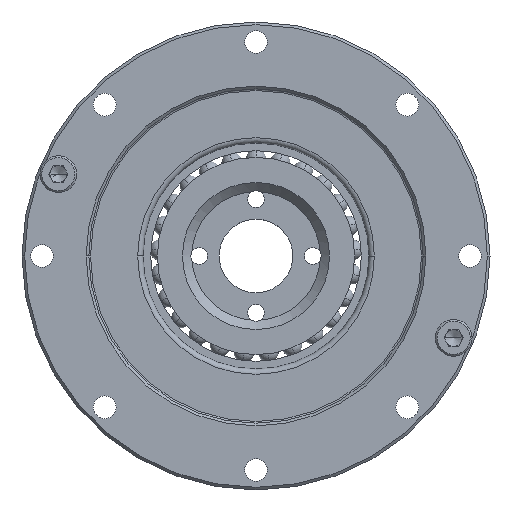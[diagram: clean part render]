
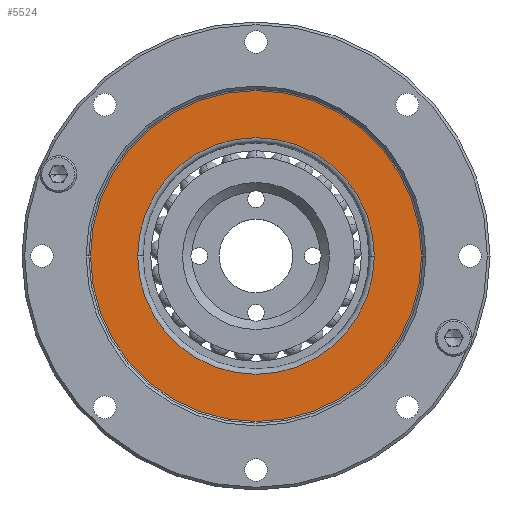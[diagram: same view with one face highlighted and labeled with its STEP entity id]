
A CAD part, left-side view. The second image highlights one B-rep face of the part: STEP entity #5524.
In plain terms, the highlighted planar face has unit normal (-1, 0, 0).
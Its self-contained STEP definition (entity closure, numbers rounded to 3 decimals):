
#653 = CARTESIAN_POINT ( 'NONE',  ( -17.11, -5.266, 70. ) ) ;
#813 = EDGE_CURVE ( 'NONE', #3166, #1036, #5618, .T. ) ;
#987 = CARTESIAN_POINT ( 'NONE',  ( -17.11, -5.266, 70. ) ) ;
#1036 = VERTEX_POINT ( 'NONE', #5708 ) ;
#1404 = AXIS2_PLACEMENT_3D ( 'NONE', #987, #5010, #1764 ) ;
#1426 = EDGE_CURVE ( 'NONE', #1036, #3166, #2555, .T. ) ;
#1517 = VERTEX_POINT ( 'NONE', #4625 ) ;
#1606 = DIRECTION ( 'NONE',  ( 0., -1., 0. ) ) ;
#1745 = CARTESIAN_POINT ( 'NONE',  ( -17.11, -5.266, 70. ) ) ;
#1756 = CARTESIAN_POINT ( 'NONE',  ( -17.11, -5.266, 70. ) ) ;
#1764 = DIRECTION ( 'NONE',  ( 0., -1., 0. ) ) ;
#1868 = CARTESIAN_POINT ( 'NONE',  ( -17.11, -5.266, 70. ) ) ;
#1991 = DIRECTION ( 'NONE',  ( -1., 0., 0. ) ) ;
#2291 = ORIENTED_EDGE ( 'NONE', *, *, #5925, .T. ) ;
#2379 = FACE_BOUND ( 'NONE', #2392, .T. ) ;
#2392 = EDGE_LOOP ( 'NONE', ( #3859, #5175 ) ) ;
#2529 = FACE_OUTER_BOUND ( 'NONE', #4451, .T. ) ;
#2555 = CIRCLE ( 'NONE', #3170, 17.7 ) ;
#2664 = CIRCLE ( 'NONE', #2683, 24.75 ) ;
#2683 = AXIS2_PLACEMENT_3D ( 'NONE', #1745, #1991, #4147 ) ;
#2846 = DIRECTION ( 'NONE',  ( -1., 0., 0. ) ) ;
#3166 = VERTEX_POINT ( 'NONE', #5838 ) ;
#3170 = AXIS2_PLACEMENT_3D ( 'NONE', #653, #2846, #1606 ) ;
#3218 = AXIS2_PLACEMENT_3D ( 'NONE', #1868, #3939, #3250 ) ;
#3250 = DIRECTION ( 'NONE',  ( 0., -1., 0. ) ) ;
#3859 = ORIENTED_EDGE ( 'NONE', *, *, #1426, .F. ) ;
#3939 = DIRECTION ( 'NONE',  ( -1., 0., 0. ) ) ;
#4054 = VERTEX_POINT ( 'NONE', #4131 ) ;
#4131 = CARTESIAN_POINT ( 'NONE',  ( -17.11, -30.016, 70. ) ) ;
#4147 = DIRECTION ( 'NONE',  ( 0., -1., 0. ) ) ;
#4293 = ORIENTED_EDGE ( 'NONE', *, *, #5807, .T. ) ;
#4374 = DIRECTION ( 'NONE',  ( 0., -1., 0. ) ) ;
#4451 = EDGE_LOOP ( 'NONE', ( #4293, #2291 ) ) ;
#4625 = CARTESIAN_POINT ( 'NONE',  ( -17.11, 19.484, 70. ) ) ;
#4643 = CIRCLE ( 'NONE', #5782, 24.75 ) ;
#4982 = PLANE ( 'NONE',  #1404 ) ;
#5010 = DIRECTION ( 'NONE',  ( -1., 0., 0. ) ) ;
#5175 = ORIENTED_EDGE ( 'NONE', *, *, #813, .F. ) ;
#5524 = ADVANCED_FACE ( 'NONE', ( #2529, #2379 ), #4982, .T. ) ;
#5618 = CIRCLE ( 'NONE', #3218, 17.7 ) ;
#5708 = CARTESIAN_POINT ( 'NONE',  ( -17.11, -22.966, 70. ) ) ;
#5782 = AXIS2_PLACEMENT_3D ( 'NONE', #1756, #6208, #4374 ) ;
#5807 = EDGE_CURVE ( 'NONE', #4054, #1517, #2664, .T. ) ;
#5838 = CARTESIAN_POINT ( 'NONE',  ( -17.11, 12.434, 70. ) ) ;
#5925 = EDGE_CURVE ( 'NONE', #1517, #4054, #4643, .T. ) ;
#6208 = DIRECTION ( 'NONE',  ( -1., 0., 0. ) ) ;
